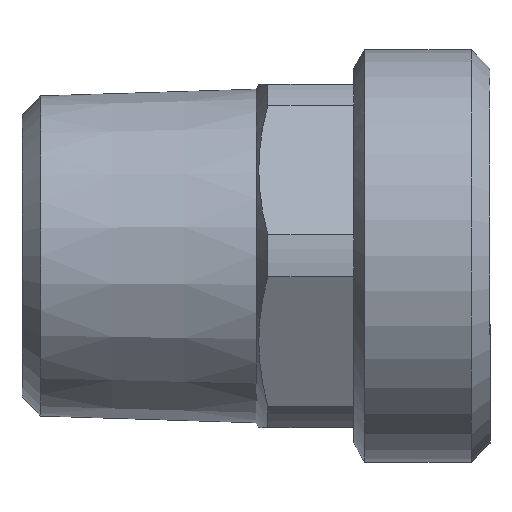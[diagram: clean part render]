
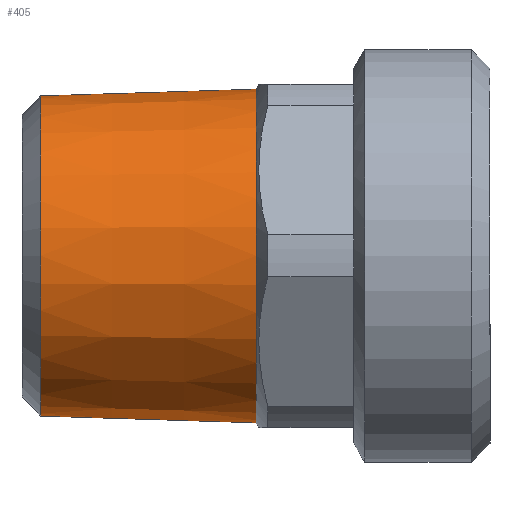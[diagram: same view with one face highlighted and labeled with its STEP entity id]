
A CAD part, top view. The second image highlights one B-rep face of the part: STEP entity #405.
In plain terms, the highlighted conical face has half-angle 1.79 degrees and reference radius 10.457 mm.
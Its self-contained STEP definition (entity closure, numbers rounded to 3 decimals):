
#19=FACE_BOUND('',#102,.T.);
#28=CONICAL_SURFACE('',#458,10.457,1.79);
#68=FACE_OUTER_BOUND('',#101,.T.);
#101=EDGE_LOOP('',(#330));
#102=EDGE_LOOP('',(#331));
#173=CIRCLE('',#457,10.26);
#174=CIRCLE('',#459,10.691);
#209=VERTEX_POINT('',#714);
#210=VERTEX_POINT('',#717);
#259=EDGE_CURVE('',#209,#209,#173,.T.);
#260=EDGE_CURVE('',#210,#210,#174,.T.);
#330=ORIENTED_EDGE('',*,*,#260,.F.);
#331=ORIENTED_EDGE('',*,*,#259,.F.);
#405=ADVANCED_FACE('',(#68,#19),#28,.T.);
#457=AXIS2_PLACEMENT_3D('',#715,#576,#577);
#458=AXIS2_PLACEMENT_3D('',#716,#578,#579);
#459=AXIS2_PLACEMENT_3D('',#718,#580,#581);
#576=DIRECTION('center_axis',(-1.,0.,0.));
#577=DIRECTION('ref_axis',(0.,-1.,0.));
#578=DIRECTION('center_axis',(1.,0.,0.));
#579=DIRECTION('ref_axis',(0.,1.,0.));
#580=DIRECTION('center_axis',(1.,0.,0.));
#581=DIRECTION('ref_axis',(0.,1.,0.));
#714=CARTESIAN_POINT('',(-0.965,10.26,0.));
#715=CARTESIAN_POINT('Origin',(-0.965,0.,0.));
#716=CARTESIAN_POINT('Origin',(5.336,0.,0.));
#717=CARTESIAN_POINT('',(12.836,10.691,0.));
#718=CARTESIAN_POINT('Origin',(12.836,0.,0.));
